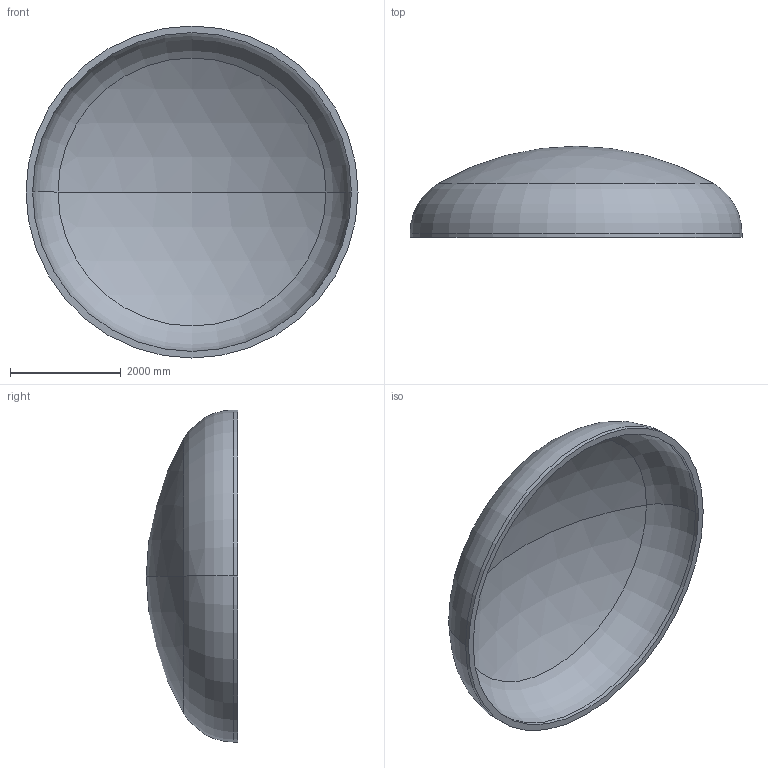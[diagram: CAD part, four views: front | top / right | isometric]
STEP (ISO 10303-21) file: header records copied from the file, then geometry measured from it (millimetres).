
FILE_DESCRIPTION (( 'STEP AP203' ), '1' );
FILE_NAME ('DIN 28013 Korbbogenform_-_Boden DIN 28013 - 6000 x 75 - I - s=120.step', '2016-07-04T10:39:27', ( '' ), ( '' ), 'SwSTEP 2.0', 'SolidWorks 2013', '' );
FILE_SCHEMA (( 'CONFIG_CONTROL_DESIGN' ));
Length unit declared in the file: millimetre
Products named in the file (1): DIN 28013 Korbbogenform_-_Boden DIN 28013 - 6000 x 75 - I - s=120
Bounding box: 6000 x 1649.32 x 6000 mm (x, y, z)
Volume: 4744267599.4 mm3; surface area: 81317964.5 mm2
Topology: 1 solids, 1 shells, 13 faces, 24 edges, 14 vertices
Faces by surface type: torus 4, cylinder 4, sphere 4, plane 1
Entity records: 407 total; most frequent: DIRECTION 72, CARTESIAN_POINT 52, ORIENTED_EDGE 48, AXIS2_PLACEMENT_3D 34, EDGE_CURVE 24, CIRCLE 20, VERTEX_POINT 14, EDGE_LOOP 14
